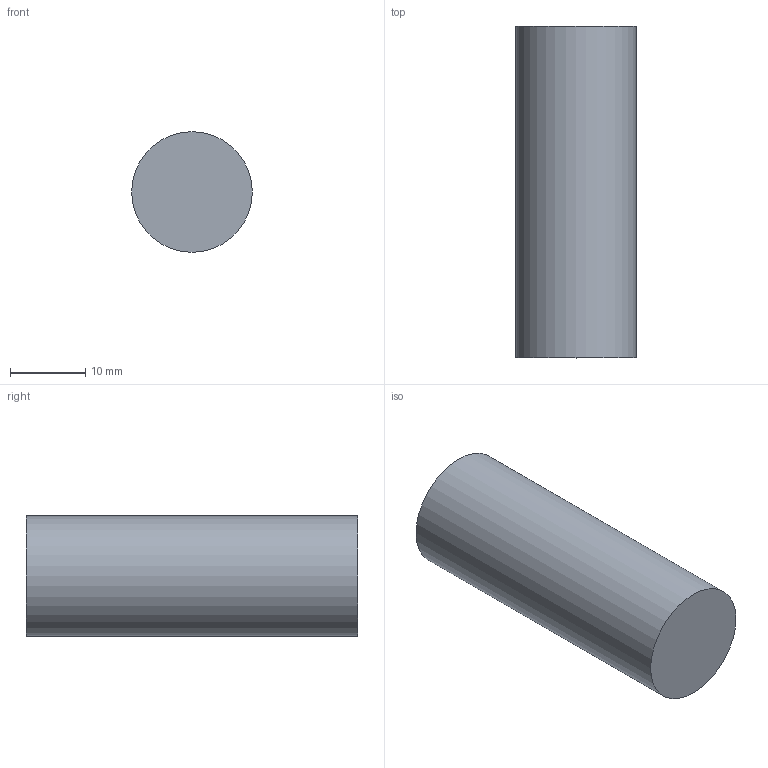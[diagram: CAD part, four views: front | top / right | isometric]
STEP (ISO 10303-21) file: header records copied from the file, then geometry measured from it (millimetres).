
FILE_DESCRIPTION(('Open CASCADE Model'),'2;1');
FILE_NAME('Open CASCADE Shape Model','2026-10-04T02:31:41',('Author'),( 'Open CASCADE'),'Open CASCADE STEP processor 8.0','Open CASCADE 8.0' ,'Unknown');
FILE_SCHEMA(('AUTOMOTIVE_DESIGN { 1 0 10303 214 1 1 1 1 }'));
Length unit declared in the file: millimetre
Products named in the file (1): Open CASCADE STEP translator 8.0 249
Bounding box: 16 x 44 x 16 mm (x, y, z)
Volume: 8846.7 mm3; surface area: 2613.8 mm2
Topology: 1 solids, 1 shells, 3 faces, 3 edges, 2 vertices
Faces by surface type: plane 2, cylinder 1
Full cylindrical faces by diameter (mm): 16 x1
Entity records: 108 total; most frequent: DIRECTION 19, CARTESIAN_POINT 15, AXIS2_PLACEMENT_3D 6, ORIENTED_EDGE 6, PCURVE 6, DEFINITIONAL_REPRESENTATION 6, LINE 5, VECTOR 5
